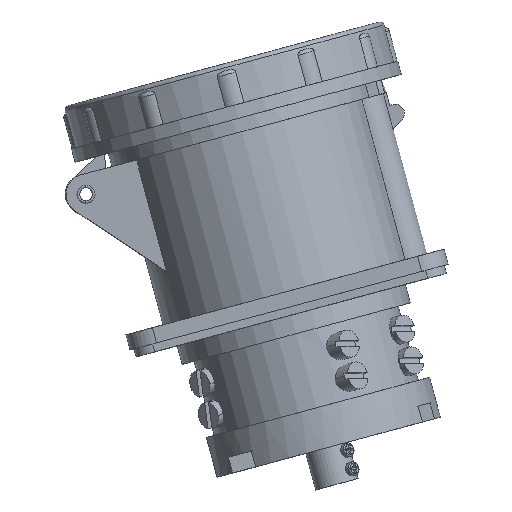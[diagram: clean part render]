
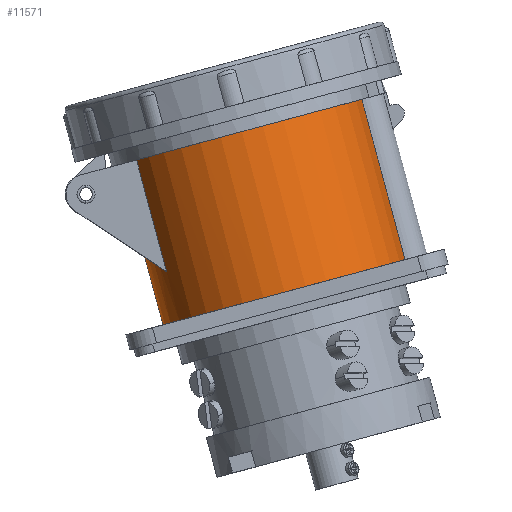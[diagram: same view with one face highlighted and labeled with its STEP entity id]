
A CAD part, left-side view. The second image highlights one B-rep face of the part: STEP entity #11571.
In plain terms, the highlighted cylindrical face has radius 46 mm (diameter 92 mm), a partial arc.
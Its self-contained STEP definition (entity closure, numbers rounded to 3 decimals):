
#691 = VERTEX_POINT ( 'NONE', #1483 ) ;
#848 = VERTEX_POINT ( 'NONE', #1640 ) ;
#1034 = VERTEX_POINT ( 'NONE', #1826 ) ;
#1190 = EDGE_LOOP ( 'NONE', ( #3904, #3902, #3887, #3866, #3897, #3864 ) ) ;
#1483 = CARTESIAN_POINT ( 'NONE',  ( -23.2, 126.927, 31.589 ) ) ;
#1640 = CARTESIAN_POINT ( 'NONE',  ( -8.35, 44.891, 53.675 ) ) ;
#1826 = CARTESIAN_POINT ( 'NONE',  ( -23.2, 115.973, -9.098 ) ) ;
#3864 = ORIENTED_EDGE ( 'NONE', *, *, #12111, .T. ) ;
#3866 = ORIENTED_EDGE ( 'NONE', *, *, #12087, .F. ) ;
#3887 = ORIENTED_EDGE ( 'NONE', *, *, #12059, .T. ) ;
#3897 = ORIENTED_EDGE ( 'NONE', *, *, #12107, .F. ) ;
#3902 = ORIENTED_EDGE ( 'NONE', *, *, #12090, .T. ) ;
#3904 = ORIENTED_EDGE ( 'NONE', *, *, #12122, .F. ) ;
#5203 = CIRCLE ( 'NONE', #9723, 46. ) ;
#5224 = CIRCLE ( 'NONE', #14741, 46. ) ;
#5846 = CARTESIAN_POINT ( 'NONE',  ( 0., 72.843, -16.505 ) ) ;
#5853 = DIRECTION ( 'NONE',  ( 0., 0.26, 0.966 ) ) ;
#5854 = DIRECTION ( 'NONE',  ( 0., 0.966, -0.26 ) ) ;
#6020 = LINE ( 'NONE', #6021, #14827 ) ;
#6021 = CARTESIAN_POINT ( 'NONE',  ( -8.35, 49.735, 71.667 ) ) ;
#6022 = DIRECTION ( 'NONE',  ( 0., -0.26, -0.966 ) ) ;
#6029 = LINE ( 'NONE', #6030, #14825 ) ;
#6030 = CARTESIAN_POINT ( 'NONE',  ( 0., 132.99, 29.956 ) ) ;
#6031 = DIRECTION ( 'NONE',  ( 0., -0.26, -0.966 ) ) ;
#6115 = CARTESIAN_POINT ( 'NONE',  ( 0., 88.571, 41.915 ) ) ;
#6116 = DIRECTION ( 'NONE',  ( 0., 0.26, 0.966 ) ) ;
#6117 = DIRECTION ( 'NONE',  ( 0., -0.966, 0.26 ) ) ;
#6128 = LINE ( 'NONE', #6129, #14839 ) ;
#6129 = CARTESIAN_POINT ( 'NONE',  ( -23.2, 126.927, 31.589 ) ) ;
#6130 = DIRECTION ( 'NONE',  ( 0., -0.26, -0.966 ) ) ;
#6222 = CARTESIAN_POINT ( 'NONE',  ( 0., 123.891, -3.84 ) ) ;
#6223 = CARTESIAN_POINT ( 'NONE',  ( -8.201, 123.891, -3.84 ) ) ;
#6224 = CARTESIAN_POINT ( 'NONE',  ( -16.118, 121.189, -5.634 ) ) ;
#6225 = CARTESIAN_POINT ( 'NONE',  ( -23.2, 115.973, -9.098 ) ) ;
#6543 = CARTESIAN_POINT ( 'NONE',  ( 0., 123.891, -3.84 ) ) ;
#6785 = CARTESIAN_POINT ( 'NONE',  ( -8.35, 29.163, -4.745 ) ) ;
#6799 = CARTESIAN_POINT ( 'NONE',  ( 0., 117.261, -28.464 ) ) ;
#7014 =( BOUNDED_CURVE ( )  B_SPLINE_CURVE ( 3, ( #6222, #6223, #6224, #6225 ),
 .UNSPECIFIED., .F., .T. ) 
 B_SPLINE_CURVE_WITH_KNOTS ( ( 4, 4 ),
 ( 3.142, 3.67 ),
 .UNSPECIFIED. ) 
 CURVE ( )  GEOMETRIC_REPRESENTATION_ITEM ( )  RATIONAL_B_SPLINE_CURVE ( ( 1., 0.977, 0.977, 1. ) ) 
 REPRESENTATION_ITEM ( '' )  );
#9237 = CARTESIAN_POINT ( 'NONE',  ( 0., 88.571, 41.915 ) ) ;
#9238 = DIRECTION ( 'NONE',  ( 0., -0.26, -0.966 ) ) ;
#9239 = DIRECTION ( 'NONE',  ( 0., 0.966, -0.26 ) ) ;
#9723 = AXIS2_PLACEMENT_3D ( 'NONE', #5846, #5853, #5854 ) ;
#11571 = ADVANCED_FACE ( 'NONE', ( #13326 ), #13141, .T. ) ;
#12059 = EDGE_CURVE ( 'NONE', #13823, #13809, #5203, .T. ) ;
#12087 = EDGE_CURVE ( 'NONE', #848, #13809, #6020, .T. ) ;
#12090 = EDGE_CURVE ( 'NONE', #13567, #13823, #6029, .T. ) ;
#12107 = EDGE_CURVE ( 'NONE', #691, #848, #5224, .T. ) ;
#12111 = EDGE_CURVE ( 'NONE', #691, #1034, #6128, .T. ) ;
#12122 = EDGE_CURVE ( 'NONE', #13567, #1034, #7014, .T. ) ;
#13060 = AXIS2_PLACEMENT_3D ( 'NONE', #9237, #9238, #9239 ) ;
#13141 = CYLINDRICAL_SURFACE ( 'NONE', #13060, 46. ) ;
#13326 = FACE_OUTER_BOUND ( 'NONE', #1190, .T. ) ;
#13567 = VERTEX_POINT ( 'NONE', #6543 ) ;
#13809 = VERTEX_POINT ( 'NONE', #6785 ) ;
#13823 = VERTEX_POINT ( 'NONE', #6799 ) ;
#14741 = AXIS2_PLACEMENT_3D ( 'NONE', #6115, #6116, #6117 ) ;
#14825 = VECTOR ( 'NONE', #6031, 1000. ) ;
#14827 = VECTOR ( 'NONE', #6022, 1000. ) ;
#14839 = VECTOR ( 'NONE', #6130, 1000. ) ;
